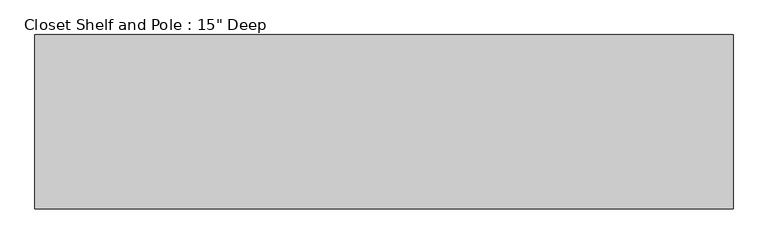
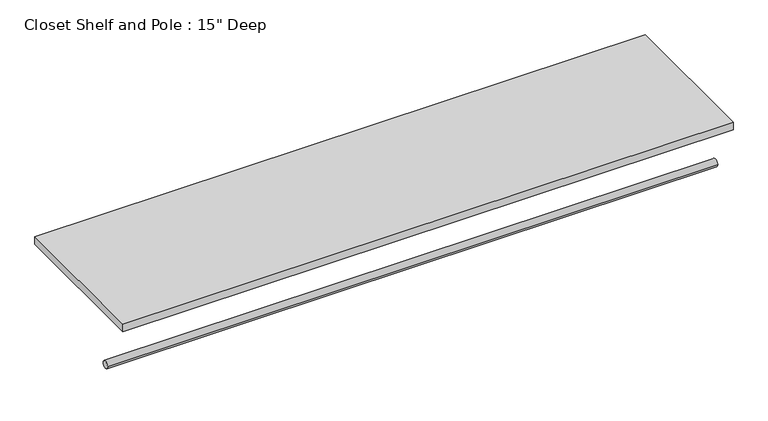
"""IFC4 building model written with IfcOpenShell, lengths in millimetres: proxy geometry."""

from ifc_helpers import new_model, si_unit, point, frame, frame_2d, origin, place, context, project, spatial, polyline, circle_curve, trimmed, segment, composite_curve, outline, extrude, source, transform, mapped, element, save


def proxy_0c6ce0b5(model_context):
    return source(origin(), model_context, "Body", "SweptSolid", [
        extrude(outline(polyline([(1524.0, 0.0), (1524.0, -381.0), (0.0, -381.0), (0.0, 0.0), (1524.0, 0.0)])), frame((0.0, 0.0, 1809.75), z_axis=(0.0, 0.0, 1.0), x_axis=(1.0, 0.0, 0.0)), (0.0, 0.0, 1.0), 19.05),
        extrude(outline(composite_curve([segment(trimmed(circle_curve(frame_2d((-304.8, 1676.4)), 9.525), [point((-314.325, 1676.4))], [point((-295.275, 1676.4))], False, "CARTESIAN"), True, "CONTINUOUS"), segment(trimmed(circle_curve(frame_2d((-304.8, 1676.4)), 9.525), [point((-295.275, 1676.4))], [point((-314.325, 1676.4))], False, "CARTESIAN"), True, "CONTINUOUS")], self_intersect=False)), frame((0.0, 0.0, 0.0), z_axis=(1.0, 0.0, 0.0), x_axis=(0.0, 1.0, 0.0)), (0.0, 0.0, 1.0), 1524.0),
    ])


if __name__ == "__main__":
    model = new_model("IFC4")
    model_context = context("Model", 3, world=origin())
    ifc_project = project(units=[si_unit("LENGTHUNIT", "METRE", prefix="MILLI")], contexts=[model_context])
    site = spatial("IfcSite", under=ifc_project)
    building = spatial("IfcBuilding", under=site)
    placement = place(None, origin())
    proxy_shape = proxy_0c6ce0b5(model_context)
    element("IfcBuildingElementProxy", 1, Name="Closet Shelf and Pole : 15\" Deep", ObjectType="Closet Shelf and Pole : 15\" Deep", at=placement, inside=building, context=model_context, shape_type="MappedRepresentation", body=[
        mapped(proxy_shape, transform((0.0, 0.0, 0.0), x_axis=(1.0, 0.0, 0.0), y_axis=(0.0, 1.0, 0.0), z_axis=(0.0, 0.0, 1.0))),
    ])
    save(model, "model.ifc")
